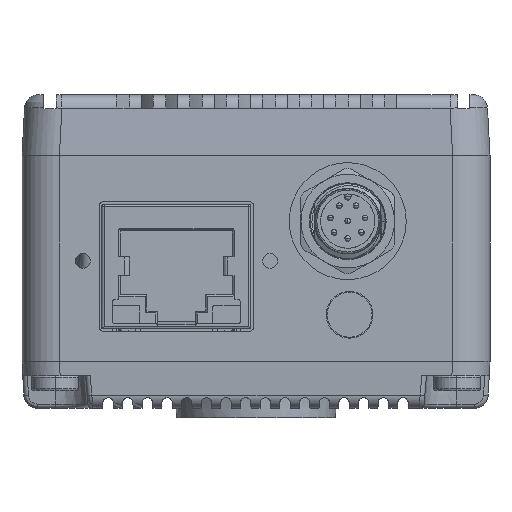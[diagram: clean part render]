
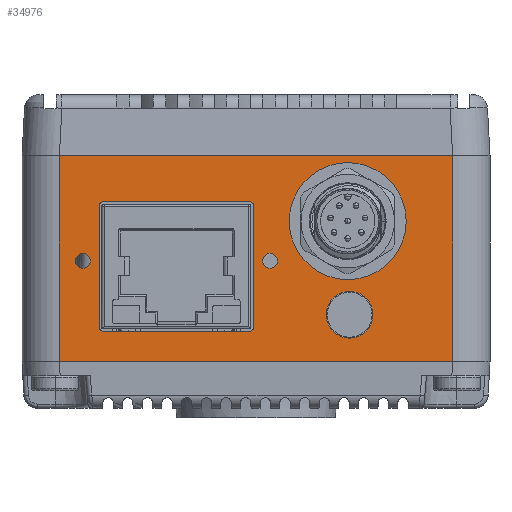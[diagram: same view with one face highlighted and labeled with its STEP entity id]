
A CAD part, left-side view. The second image highlights one B-rep face of the part: STEP entity #34976.
In plain terms, the highlighted planar face has unit normal (-1, 0, 0).
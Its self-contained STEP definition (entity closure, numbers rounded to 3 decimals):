
#4766=CARTESIAN_POINT('',(-59.,0.75,-7.3));
#4767=DIRECTION('',(1.,0.,0.));
#4768=DIRECTION('',(0.,-1.,0.));
#4769=AXIS2_PLACEMENT_3D('',#4766,#4767,#4768);
#4787=CARTESIAN_POINT('',(-59.,18.5,-0.25));
#4788=DIRECTION('',(-1.,0.,0.));
#4789=DIRECTION('',(0.,1.,0.));
#4790=AXIS2_PLACEMENT_3D('',#4787,#4788,#4789);
#4795=CARTESIAN_POINT('',(-59.,18.5,-0.25));
#4796=DIRECTION('',(-1.,0.,0.));
#4797=DIRECTION('',(0.,-1.,0.));
#4798=AXIS2_PLACEMENT_3D('',#4795,#4796,#4797);
#4803=CARTESIAN_POINT('',(-59.,-1.5,-0.25));
#4804=DIRECTION('',(-1.,0.,0.));
#4805=DIRECTION('',(0.,1.,0.));
#4806=AXIS2_PLACEMENT_3D('',#4803,#4804,#4805);
#4811=CARTESIAN_POINT('',(-59.,-1.5,-0.25));
#4812=DIRECTION('',(-1.,0.,0.));
#4813=DIRECTION('',(0.,-1.,0.));
#4814=AXIS2_PLACEMENT_3D('',#4811,#4812,#4813);
#4819=DIRECTION('',(0.,1.,0.));
#4820=VECTOR('',#4819,15.5);
#4821=CARTESIAN_POINT('',(-59.,0.75,6.1));
#4822=LINE('',#4821,#4820);
#4826=DIRECTION('',(0.,0.,-1.));
#4827=VECTOR('',#4826,12.9);
#4828=CARTESIAN_POINT('',(-59.,16.75,5.6));
#4829=LINE('',#4828,#4827);
#4833=DIRECTION('',(0.,-1.,0.));
#4834=VECTOR('',#4833,15.5);
#4835=CARTESIAN_POINT('',(-59.,16.25,-7.8));
#4836=LINE('',#4835,#4834);
#4840=DIRECTION('',(0.,0.,1.));
#4841=VECTOR('',#4840,12.9);
#4842=CARTESIAN_POINT('',(-59.,0.25,-7.3));
#4843=LINE('',#4842,#4841);
#4847=CARTESIAN_POINT('',(-59.,-9.8,4.));
#4848=DIRECTION('',(-1.,0.,0.));
#4849=DIRECTION('',(0.,1.,0.));
#4850=AXIS2_PLACEMENT_3D('',#4847,#4848,#4849);
#4855=CARTESIAN_POINT('',(-59.,-9.8,4.));
#4856=DIRECTION('',(-1.,0.,0.));
#4857=DIRECTION('',(0.,-1.,0.));
#4858=AXIS2_PLACEMENT_3D('',#4855,#4856,#4857);
#4863=CARTESIAN_POINT('',(-59.,-10.,-6.));
#4864=DIRECTION('',(-1.,0.,0.));
#4865=DIRECTION('',(0.,-1.,0.));
#4866=AXIS2_PLACEMENT_3D('',#4863,#4864,#4865);
#4871=CARTESIAN_POINT('',(-59.,-10.,-6.));
#4872=DIRECTION('',(-1.,0.,0.));
#4873=DIRECTION('',(0.,1.,0.));
#4874=AXIS2_PLACEMENT_3D('',#4871,#4872,#4873);
#4879=DIRECTION('',(0.,0.,-1.));
#4880=VECTOR('',#4879,22.);
#4881=CARTESIAN_POINT('',(-59.,21.,11.));
#4882=LINE('',#4881,#4880);
#4886=DIRECTION('',(0.,0.,-1.));
#4887=VECTOR('',#4886,22.);
#4888=CARTESIAN_POINT('',(-59.,-21.,11.));
#4889=LINE('',#4888,#4887);
#4893=DIRECTION('',(0.,-1.,0.));
#4894=VECTOR('',#4893,42.);
#4895=CARTESIAN_POINT('',(-59.,21.,-11.));
#4896=LINE('',#4895,#4894);
#10279=CARTESIAN_POINT('',(-59.,0.75,5.6));
#10280=DIRECTION('',(1.,0.,0.));
#10281=DIRECTION('',(0.,0.,1.));
#10282=AXIS2_PLACEMENT_3D('',#10279,#10280,#10281);
#11126=CARTESIAN_POINT('',(-59.,16.25,-7.3));
#11127=DIRECTION('',(1.,0.,0.));
#11128=DIRECTION('',(0.,0.,-1.));
#11129=AXIS2_PLACEMENT_3D('',#11126,#11127,#11128);
#15942=DIRECTION('',(0.,-1.,0.));
#15943=VECTOR('',#15942,42.);
#15944=CARTESIAN_POINT('',(-59.,21.,11.));
#15945=LINE('',#15944,#15943);
#25276=CARTESIAN_POINT('',(-59.,16.25,5.6));
#25277=DIRECTION('',(1.,0.,0.));
#25278=DIRECTION('',(0.,1.,0.));
#25279=AXIS2_PLACEMENT_3D('',#25276,#25277,#25278);
#30204=CARTESIAN_POINT('',(-59.,19.3,-0.25));
#30205=CARTESIAN_POINT('',(-59.,17.7,-0.25));
#30206=VERTEX_POINT('',#30204);
#30207=VERTEX_POINT('',#30205);
#30208=CARTESIAN_POINT('',(-59.,-0.7,-0.25));
#30209=CARTESIAN_POINT('',(-59.,-2.3,-0.25));
#30210=VERTEX_POINT('',#30208);
#30211=VERTEX_POINT('',#30209);
#30216=CARTESIAN_POINT('',(-59.,16.25,6.1));
#30218=VERTEX_POINT('',#30216);
#30220=CARTESIAN_POINT('',(-59.,16.25,-7.8));
#30222=VERTEX_POINT('',#30220);
#30240=CARTESIAN_POINT('',(-59.,0.75,6.1));
#30241=VERTEX_POINT('',#30240);
#30242=CARTESIAN_POINT('',(-59.,16.75,5.6));
#30243=CARTESIAN_POINT('',(-59.,16.75,-7.3));
#30244=VERTEX_POINT('',#30242);
#30245=VERTEX_POINT('',#30243);
#30246=CARTESIAN_POINT('',(-59.,0.75,-7.8));
#30247=VERTEX_POINT('',#30246);
#30248=CARTESIAN_POINT('',(-59.,0.25,-7.3));
#30249=CARTESIAN_POINT('',(-59.,0.25,5.6));
#30250=VERTEX_POINT('',#30248);
#30251=VERTEX_POINT('',#30249);
#30252=CARTESIAN_POINT('',(-59.,-12.5,-6.));
#30253=CARTESIAN_POINT('',(-59.,-7.5,-6.));
#30254=VERTEX_POINT('',#30252);
#30255=VERTEX_POINT('',#30253);
#30260=CARTESIAN_POINT('',(-59.,-3.55,4.));
#30261=CARTESIAN_POINT('',(-59.,-16.05,4.));
#30262=VERTEX_POINT('',#30260);
#30263=VERTEX_POINT('',#30261);
#31995=CARTESIAN_POINT('',(-59.,21.,11.));
#31996=CARTESIAN_POINT('',(-59.,-21.,11.));
#31997=VERTEX_POINT('',#31995);
#31998=VERTEX_POINT('',#31996);
#32052=CARTESIAN_POINT('',(-59.,21.,-11.));
#32053=CARTESIAN_POINT('',(-59.,-21.,-11.));
#32054=VERTEX_POINT('',#32052);
#32055=VERTEX_POINT('',#32053);
#34923=CARTESIAN_POINT('',(-59.,25.,-16.));
#34924=DIRECTION('',(-1.,0.,0.));
#34925=DIRECTION('',(0.,-1.,0.));
#34926=AXIS2_PLACEMENT_3D('',#34923,#34924,#34925);
#34927=PLANE('',#34926);
#34929=ORIENTED_EDGE('',*,*,#34928,.F.);
#34931=ORIENTED_EDGE('',*,*,#34930,.T.);
#34932=ORIENTED_EDGE('',*,*,#34361,.T.);
#34934=ORIENTED_EDGE('',*,*,#34933,.F.);
#34935=EDGE_LOOP('',(#34929,#34931,#34932,#34934));
#34936=FACE_OUTER_BOUND('',#34935,.F.);
#34938=ORIENTED_EDGE('',*,*,#34937,.T.);
#34940=ORIENTED_EDGE('',*,*,#34939,.T.);
#34941=EDGE_LOOP('',(#34938,#34940));
#34942=FACE_BOUND('',#34941,.F.);
#34944=ORIENTED_EDGE('',*,*,#34943,.T.);
#34946=ORIENTED_EDGE('',*,*,#34945,.F.);
#34947=ORIENTED_EDGE('',*,*,#34830,.T.);
#34949=ORIENTED_EDGE('',*,*,#34948,.F.);
#34951=ORIENTED_EDGE('',*,*,#34950,.T.);
#34952=ORIENTED_EDGE('',*,*,#34914,.F.);
#34953=ORIENTED_EDGE('',*,*,#34903,.T.);
#34955=ORIENTED_EDGE('',*,*,#34954,.F.);
#34956=EDGE_LOOP('',(#34944,#34946,#34947,#34949,#34951,#34952,#34953,#34955));
#34957=FACE_BOUND('',#34956,.F.);
#34959=ORIENTED_EDGE('',*,*,#34958,.T.);
#34961=ORIENTED_EDGE('',*,*,#34960,.T.);
#34962=EDGE_LOOP('',(#34959,#34961));
#34963=FACE_BOUND('',#34962,.F.);
#34965=ORIENTED_EDGE('',*,*,#34964,.T.);
#34967=ORIENTED_EDGE('',*,*,#34966,.T.);
#34968=EDGE_LOOP('',(#34965,#34967));
#34969=FACE_BOUND('',#34968,.F.);
#34971=ORIENTED_EDGE('',*,*,#34970,.T.);
#34973=ORIENTED_EDGE('',*,*,#34972,.T.);
#34974=EDGE_LOOP('',(#34971,#34973));
#34975=FACE_BOUND('',#34974,.F.);
#34976=ADVANCED_FACE('',(#34936,#34942,#34957,#34963,#34969,#34975),#34927,.T.);
#4770=CIRCLE('',#4769,0.5);
#4791=CIRCLE('',#4790,0.8);
#4799=CIRCLE('',#4798,0.8);
#4807=CIRCLE('',#4806,0.8);
#4815=CIRCLE('',#4814,0.8);
#4851=CIRCLE('',#4850,6.25);
#4859=CIRCLE('',#4858,6.25);
#4867=CIRCLE('',#4866,2.5);
#4875=CIRCLE('',#4874,2.5);
#10283=CIRCLE('',#10282,0.5);
#11130=CIRCLE('',#11129,0.5);
#25280=CIRCLE('',#25279,0.5);
#34361=EDGE_CURVE('',#31998,#32055,#4889,.T.);
#34830=EDGE_CURVE('',#30244,#30245,#4829,.T.);
#34903=EDGE_CURVE('',#30250,#30251,#4843,.T.);
#34914=EDGE_CURVE('',#30250,#30247,#4770,.T.);
#34928=EDGE_CURVE('',#31997,#32054,#4882,.T.);
#34930=EDGE_CURVE('',#31997,#31998,#15945,.T.);
#34933=EDGE_CURVE('',#32054,#32055,#4896,.T.);
#34937=EDGE_CURVE('',#30210,#30211,#4807,.T.);
#34939=EDGE_CURVE('',#30211,#30210,#4815,.T.);
#34943=EDGE_CURVE('',#30241,#30218,#4822,.T.);
#34945=EDGE_CURVE('',#30244,#30218,#25280,.T.);
#34948=EDGE_CURVE('',#30222,#30245,#11130,.T.);
#34950=EDGE_CURVE('',#30222,#30247,#4836,.T.);
#34954=EDGE_CURVE('',#30241,#30251,#10283,.T.);
#34958=EDGE_CURVE('',#30262,#30263,#4851,.T.);
#34960=EDGE_CURVE('',#30263,#30262,#4859,.T.);
#34964=EDGE_CURVE('',#30254,#30255,#4867,.T.);
#34966=EDGE_CURVE('',#30255,#30254,#4875,.T.);
#34970=EDGE_CURVE('',#30206,#30207,#4791,.T.);
#34972=EDGE_CURVE('',#30207,#30206,#4799,.T.);
